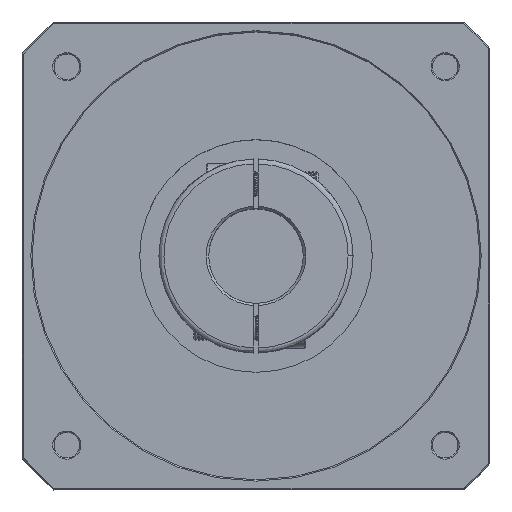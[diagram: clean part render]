
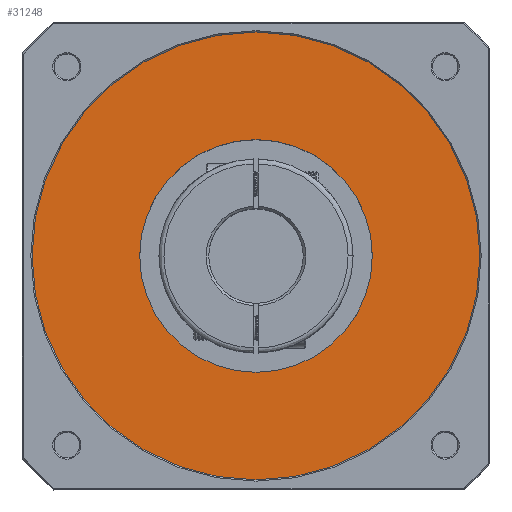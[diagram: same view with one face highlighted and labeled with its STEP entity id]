
A CAD part, top view. The second image highlights one B-rep face of the part: STEP entity #31248.
In plain terms, the highlighted planar face has unit normal (0, 0, -1).
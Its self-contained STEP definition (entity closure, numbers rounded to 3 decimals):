
#1131 = CARTESIAN_POINT ( 'NONE',  ( 0., 0., 285.5 ) ) ;
#1153 = AXIS2_PLACEMENT_3D ( 'NONE', #1131, #50132, #8198 ) ;
#1987 = DIRECTION ( 'NONE',  ( -1., 0., 0. ) ) ;
#2162 = AXIS2_PLACEMENT_3D ( 'NONE', #50609, #8687, #57724 ) ;
#3383 = DIRECTION ( 'NONE',  ( 1., 0., 0. ) ) ;
#3841 = FACE_BOUND ( 'NONE', #53598, .T. ) ;
#8198 = DIRECTION ( 'NONE',  ( 1., 0., 0. ) ) ;
#8687 = DIRECTION ( 'NONE',  ( 0., 0., 1. ) ) ;
#10451 = CARTESIAN_POINT ( 'NONE',  ( -91.08, -91.08, 285.5 ) ) ;
#11305 = ORIENTED_EDGE ( 'NONE', *, *, #40208, .T. ) ;
#11372 = CARTESIAN_POINT ( 'NONE',  ( 90., 0., 285.5 ) ) ;
#13206 = AXIS2_PLACEMENT_3D ( 'NONE', #86093, #44011, #1987 ) ;
#16777 = CIRCLE ( 'NONE', #26906, 90. ) ;
#17485 = DIRECTION ( 'NONE',  ( 1., 0., 0. ) ) ;
#18373 = ORIENTED_EDGE ( 'NONE', *, *, #48676, .T. ) ;
#21765 = EDGE_LOOP ( 'NONE', ( #48372, #11305 ) ) ;
#24236 = PLANE ( 'NONE',  #42203 ) ;
#26906 = AXIS2_PLACEMENT_3D ( 'NONE', #87484, #45376, #3383 ) ;
#27531 = EDGE_CURVE ( 'NONE', #65760, #49032, #40998, .T. ) ;
#31248 = ADVANCED_FACE ( 'NONE', ( #3841, #57588 ), #24236, .F. ) ;
#38917 = CARTESIAN_POINT ( 'NONE',  ( -90., 0., 285.5 ) ) ;
#40208 = EDGE_CURVE ( 'NONE', #50730, #75155, #16777, .T. ) ;
#40998 = CIRCLE ( 'NONE', #13206, 46.75 ) ;
#42203 = AXIS2_PLACEMENT_3D ( 'NONE', #10451, #59480, #17485 ) ;
#44011 = DIRECTION ( 'NONE',  ( 0., 0., 1. ) ) ;
#45376 = DIRECTION ( 'NONE',  ( 0., 0., -1. ) ) ;
#48372 = ORIENTED_EDGE ( 'NONE', *, *, #59889, .T. ) ;
#48676 = EDGE_CURVE ( 'NONE', #49032, #65760, #51444, .T. ) ;
#49032 = VERTEX_POINT ( 'NONE', #62554 ) ;
#49296 = ORIENTED_EDGE ( 'NONE', *, *, #27531, .T. ) ;
#50132 = DIRECTION ( 'NONE',  ( 0., 0., -1. ) ) ;
#50609 = CARTESIAN_POINT ( 'NONE',  ( 0., 0., 285.5 ) ) ;
#50730 = VERTEX_POINT ( 'NONE', #38917 ) ;
#51444 = CIRCLE ( 'NONE', #2162, 46.75 ) ;
#53598 = EDGE_LOOP ( 'NONE', ( #49296, #18373 ) ) ;
#57588 = FACE_OUTER_BOUND ( 'NONE', #21765, .T. ) ;
#57724 = DIRECTION ( 'NONE',  ( -1., 0., 0. ) ) ;
#59480 = DIRECTION ( 'NONE',  ( 0., 0., 1. ) ) ;
#59889 = EDGE_CURVE ( 'NONE', #75155, #50730, #89336, .T. ) ;
#62554 = CARTESIAN_POINT ( 'NONE',  ( 46.75, 0., 285.5 ) ) ;
#65760 = VERTEX_POINT ( 'NONE', #74813 ) ;
#74813 = CARTESIAN_POINT ( 'NONE',  ( -46.75, 0., 285.5 ) ) ;
#75155 = VERTEX_POINT ( 'NONE', #11372 ) ;
#86093 = CARTESIAN_POINT ( 'NONE',  ( 0., 0., 285.5 ) ) ;
#87484 = CARTESIAN_POINT ( 'NONE',  ( 0., 0., 285.5 ) ) ;
#89336 = CIRCLE ( 'NONE', #1153, 90. ) ;
